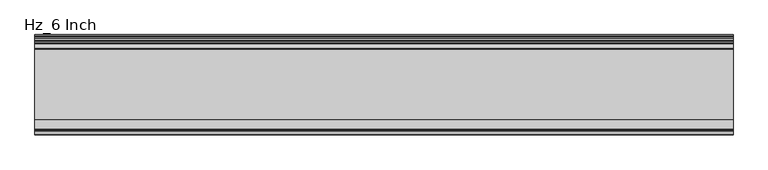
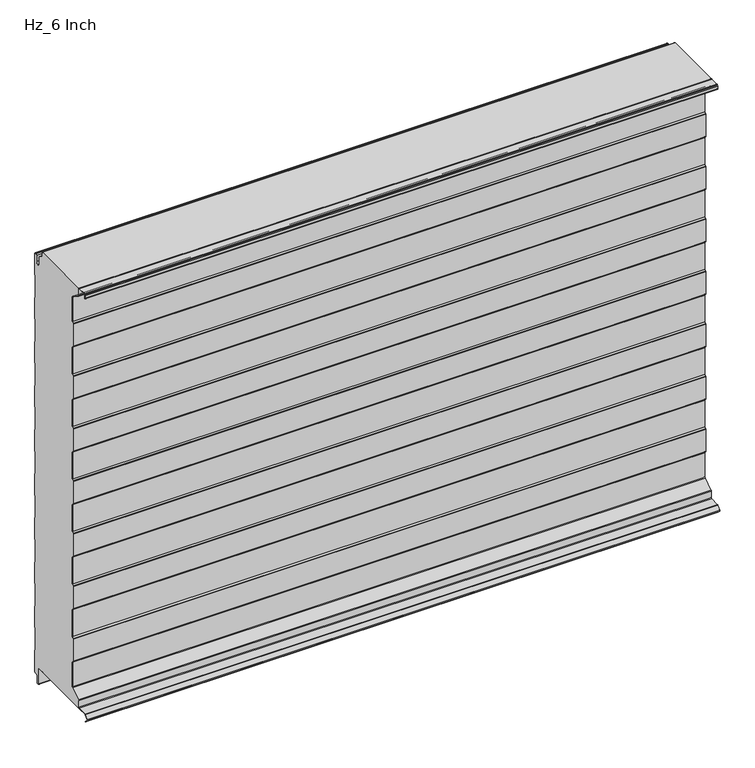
"""IFC4 building model written with IfcOpenShell, lengths in millimetres: plate geometry, KIP_R19_CP_KingSeam_Hz_Roof Panel : Hz_6 Inch."""

from ifc_helpers import new_model, si_unit, point, frame, frame_2d, origin, place, context, project, spatial, polyline, circle_curve, trimmed, segment, composite_curve, outline, extrude, source, transform, mapped, element, save


def hz_6_inch_54fbc4f6(model_context):
    return source(origin(), model_context, "Body", "SweptSolid", [
        extrude(outline(composite_curve([segment(polyline([(-152.1158093, 535.7535265), (-149.6158809, 539.2132218), (-149.6158809, 603.7867783), (-152.115809, 607.2464732)]), True, "CONTINUOUS"), segment(trimmed(circle_curve(frame_2d((-150.9000003, 608.1249998)), 1.4999999), [point((-152.115809, 607.2464732))], [point((-152.4000002, 608.1249998))], False, "CARTESIAN"), True, "CONTINUOUS"), segment(polyline([(-152.4000002, 608.1249998), (-152.4000003, 661.8749998)]), True, "CONTINUOUS"), segment(trimmed(circle_curve(frame_2d((-150.9000002, 661.8749998)), 1.5), [point((-152.4000003, 661.8749998))], [point((-152.1158089, 662.7535266))], False, "CARTESIAN"), True, "CONTINUOUS"), segment(polyline([(-152.1158089, 662.7535266), (-149.6158807, 666.2132214), (-149.6158807, 730.7867783), (-152.115809, 734.246473)]), True, "CONTINUOUS"), segment(trimmed(circle_curve(frame_2d((-150.9000003, 735.1249998)), 1.5000001), [point((-152.115809, 734.246473))], [point((-152.4000004, 735.1249998))], False, "CARTESIAN"), True, "CONTINUOUS"), segment(polyline([(-152.4000004, 735.1249998), (-152.4000004, 788.8749998)]), True, "CONTINUOUS"), segment(trimmed(circle_curve(frame_2d((-150.9000005, 788.8749998)), 1.4999999), [point((-152.4000004, 788.8749998))], [point((-152.1158091, 789.7535265))], False, "CARTESIAN"), True, "CONTINUOUS"), segment(polyline([(-152.1158091, 789.7535265), (-149.6158803, 793.2132223), (-149.6158803, 857.7867782), (-152.1158086, 861.246473)]), True, "CONTINUOUS"), segment(trimmed(circle_curve(frame_2d((-150.8999999, 862.1249998)), 1.5000001), [point((-152.1158086, 861.246473))], [point((-152.4, 862.1249998))], False, "CARTESIAN"), True, "CONTINUOUS"), segment(polyline([(-152.4, 862.1249998), (-152.4, 915.8749998)]), True, "CONTINUOUS"), segment(trimmed(circle_curve(frame_2d((-150.9000001, 915.8749998)), 1.4999999), [point((-152.4, 915.8749998))], [point((-152.1158088, 916.7535264))], False, "CARTESIAN"), True, "CONTINUOUS"), segment(polyline([(-152.1158088, 916.7535264), (-149.6158808, 920.2132216), (-149.6158808, 979.387149)]), True, "CONTINUOUS"), segment(trimmed(circle_curve(frame_2d((-152.1158808, 979.387149)), 2.5), [point((-149.6158808, 979.387149))], [point((-150.7365754, 981.4722189))], True, "CARTESIAN"), True, "CONTINUOUS"), segment(polyline([(-150.7365754, 981.4722189), (-173.7193251, 996.6756573)]), True, "CONTINUOUS"), segment(trimmed(circle_curve(frame_2d((-172.6158808, 998.3437132)), 2.0), [point((-173.7193251, 996.6756573))], [point((-174.6158808, 998.3437132))], False, "CARTESIAN"), True, "CONTINUOUS"), segment(polyline([(-174.6158808, 998.3437132), (-174.6158808, 1013.8999998)]), True, "CONTINUOUS"), segment(trimmed(circle_curve(frame_2d((-176.7158808, 1013.8999998)), 2.1), [point((-174.6158808, 1013.8999998))], [point((-176.7158808, 1015.9999998))], True, "CARTESIAN"), True, "CONTINUOUS"), segment(polyline([(-176.7158808, 1015.9999998), (-31.9999994, 1015.9999998), (-31.9999994, 1015.1999999), (-30.7664368, 1015.1999999)]), True, "CONTINUOUS"), segment(trimmed(circle_curve(frame_2d((-30.7664368, 1014.1999999)), 1.0), [point((-30.7664368, 1015.1999999))], [point((-29.7664368, 1014.1999999))], False, "CARTESIAN"), True, "CONTINUOUS"), segment(polyline([(-29.7664368, 1014.1999999), (-29.7664368, 1004.6085617)]), True, "CONTINUOUS"), segment(trimmed(circle_curve(frame_2d((-27.7664368, 1004.6085617)), 2.0), [point((-29.7664368, 1004.6085617))], [point((-28.7691573, 1002.8780844))], True, "CARTESIAN"), True, "CONTINUOUS"), segment(polyline([(-28.7691573, 1002.8780844), (-18.9986392, 997.2165837)]), True, "CONTINUOUS"), segment(trimmed(circle_curve(frame_2d((-19.4999994, 996.351345)), 1.0), [point((-18.9986392, 997.2165837))], [point((-18.4999994, 996.351345))], False, "CARTESIAN"), True, "CONTINUOUS"), segment(polyline([(-18.4999994, 996.351345), (-18.4999994, 979.25)]), True, "CONTINUOUS"), segment(trimmed(circle_curve(frame_2d((-13.7499994, 979.25)), 4.75), [point((-18.4999994, 979.25))], [point((-13.7499994, 974.5))], True, "CARTESIAN"), True, "CONTINUOUS"), segment(polyline([(-13.7499994, 974.5), (-12.2499994, 974.5)]), True, "CONTINUOUS"), segment(trimmed(circle_curve(frame_2d((-12.2499994, 979.25)), 4.75), [point((-12.2499994, 974.5))], [point((-7.4999994, 979.25))], True, "CARTESIAN"), True, "CONTINUOUS"), segment(polyline([(-7.4999994, 979.25), (-7.4999994, 994.2157998)]), True, "CONTINUOUS"), segment(trimmed(circle_curve(frame_2d((-4.9999994, 994.2157998)), 2.5), [point((-7.4999994, 994.2157998))], [point((-4.9999994, 996.7157998))], False, "CARTESIAN"), True, "CONTINUOUS"), segment(polyline([(-4.9999994, 996.7157998), (-2.9999994, 996.7157998)]), True, "CONTINUOUS"), segment(trimmed(circle_curve(frame_2d((-2.8161919, 994.6595504)), 2.0644483), [point((-2.9999994, 996.7157998))], [point((-0.7999994, 994.2157998))], False, "CARTESIAN"), True, "CONTINUOUS"), segment(polyline([(-0.7999994, 994.2157998), (-0.7999994, 944.4584772)]), True, "CONTINUOUS"), segment(trimmed(circle_curve(frame_2d((-3.1999994, 944.4584772)), 2.4), [point((-0.7999994, 944.4584772))], [point((-0.9968117, 943.5066559))], False, "CARTESIAN"), True, "CONTINUOUS"), segment(polyline([(-0.9968117, 943.5066559), (-2.0293826, 941.1165567)]), True, "CONTINUOUS"), segment(trimmed(circle_curve(frame_2d((1.0000006, 939.8078024)), 3.3), [point((-2.0293826, 941.1165567))], [point((-2.2999994, 939.8078024))], True, "CARTESIAN"), True, "CONTINUOUS"), segment(polyline([(-2.2999994, 939.8078024), (-2.2999994, 891.4237972)]), True, "CONTINUOUS"), segment(trimmed(circle_curve(frame_2d((1.0000006, 891.4237972)), 3.3), [point((-2.2999994, 891.4237972))], [point((-2.0293826, 890.1150429))], True, "CARTESIAN"), True, "CONTINUOUS"), segment(polyline([(-2.0293826, 890.1150429), (-0.9968117, 887.7249437)]), True, "CONTINUOUS"), segment(trimmed(circle_curve(frame_2d((-3.1999994, 886.7731223)), 2.4), [point((-0.9968117, 887.7249437))], [point((-0.7999994, 886.7731223))], False, "CARTESIAN"), True, "CONTINUOUS"), segment(polyline([(-0.7999994, 886.7731223), (-0.7999994, 837.8584772)]), True, "CONTINUOUS"), segment(trimmed(circle_curve(frame_2d((-3.1999994, 837.8584772)), 2.4), [point((-0.7999994, 837.8584772))], [point((-0.9968117, 836.9066559))], False, "CARTESIAN"), True, "CONTINUOUS"), segment(polyline([(-0.9968117, 836.9066559), (-2.0293826, 834.5165567)]), True, "CONTINUOUS"), segment(trimmed(circle_curve(frame_2d((1.0000006, 833.2078024)), 3.3), [point((-2.0293826, 834.5165567))], [point((-2.2999994, 833.2078024))], True, "CARTESIAN"), True, "CONTINUOUS"), segment(polyline([(-2.2999994, 833.2078024), (-2.2999994, 784.8237972)]), True, "CONTINUOUS"), segment(trimmed(circle_curve(frame_2d((1.0000006, 784.8237972)), 3.3), [point((-2.2999994, 784.8237972))], [point((-2.0293826, 783.5150429))], True, "CARTESIAN"), True, "CONTINUOUS"), segment(polyline([(-2.0293826, 783.5150429), (-0.9968117, 781.1249437)]), True, "CONTINUOUS"), segment(trimmed(circle_curve(frame_2d((-3.1999994, 780.1731223)), 2.4), [point((-0.9968117, 781.1249437))], [point((-0.7999994, 780.1731223))], False, "CARTESIAN"), True, "CONTINUOUS"), segment(polyline([(-0.7999994, 780.1731223), (-0.7999994, 731.2584772)]), True, "CONTINUOUS"), segment(trimmed(circle_curve(frame_2d((-3.1999994, 731.2584772)), 2.4), [point((-0.7999994, 731.2584772))], [point((-0.9968117, 730.3066559))], False, "CARTESIAN"), True, "CONTINUOUS"), segment(polyline([(-0.9968117, 730.3066559), (-2.0293826, 727.9165567)]), True, "CONTINUOUS"), segment(trimmed(circle_curve(frame_2d((1.0000006, 726.6078024)), 3.3), [point((-2.0293826, 727.9165567))], [point((-2.2999994, 726.6078024))], True, "CARTESIAN"), True, "CONTINUOUS"), segment(polyline([(-2.2999994, 726.6078024), (-2.2999994, 678.2237972)]), True, "CONTINUOUS"), segment(trimmed(circle_curve(frame_2d((1.0000006, 678.2237972)), 3.3), [point((-2.2999994, 678.2237972))], [point((-2.0293826, 676.9150429))], True, "CARTESIAN"), True, "CONTINUOUS"), segment(polyline([(-2.0293826, 676.9150429), (-0.9968117, 674.5249437)]), True, "CONTINUOUS"), segment(trimmed(circle_curve(frame_2d((-3.1999994, 673.5731223)), 2.4), [point((-0.9968117, 674.5249437))], [point((-0.7999994, 673.5731223))], False, "CARTESIAN"), True, "CONTINUOUS"), segment(polyline([(-0.7999994, 673.5731223), (-0.7999994, 624.6584772)]), True, "CONTINUOUS"), segment(trimmed(circle_curve(frame_2d((-3.1999994, 624.6584772)), 2.4), [point((-0.7999994, 624.6584772))], [point((-0.9968117, 623.7066559))], False, "CARTESIAN"), True, "CONTINUOUS"), segment(polyline([(-0.9968117, 623.7066559), (-2.0293826, 621.3165567)]), True, "CONTINUOUS"), segment(trimmed(circle_curve(frame_2d((1.0000006, 620.0078024)), 3.3), [point((-2.0293826, 621.3165567))], [point((-2.2999994, 620.0078024))], True, "CARTESIAN"), True, "CONTINUOUS"), segment(polyline([(-2.2999994, 620.0078024), (-2.2999994, 571.6237972)]), True, "CONTINUOUS"), segment(trimmed(circle_curve(frame_2d((1.0000006, 571.6237972)), 3.3), [point((-2.2999994, 571.6237972))], [point((-2.0293826, 570.3150429))], True, "CARTESIAN"), True, "CONTINUOUS"), segment(polyline([(-2.0293826, 570.3150429), (-0.9968117, 567.9249437)]), True, "CONTINUOUS"), segment(trimmed(circle_curve(frame_2d((-3.1999994, 566.9731223)), 2.4), [point((-0.9968117, 567.9249437))], [point((-0.7999994, 566.9731223))], False, "CARTESIAN"), True, "CONTINUOUS"), segment(polyline([(-0.7999994, 566.9731223), (-0.7999994, 518.0584772)]), True, "CONTINUOUS"), segment(trimmed(circle_curve(frame_2d((-3.1999994, 518.0584772)), 2.4), [point((-0.7999994, 518.0584772))], [point((-0.9968117, 517.1066559))], False, "CARTESIAN"), True, "CONTINUOUS"), segment(polyline([(-0.9968117, 517.1066559), (-2.0293826, 514.7165567)]), True, "CONTINUOUS"), segment(trimmed(circle_curve(frame_2d((1.0000006, 513.4078024)), 3.3), [point((-2.0293826, 514.7165567))], [point((-2.2999994, 513.4078024))], True, "CARTESIAN"), True, "CONTINUOUS"), segment(polyline([(-2.2999994, 513.4078024), (-2.2999994, 465.0237972)]), True, "CONTINUOUS"), segment(trimmed(circle_curve(frame_2d((1.0000006, 465.0237972)), 3.3), [point((-2.2999994, 465.0237972))], [point((-2.0293826, 463.7150429))], True, "CARTESIAN"), True, "CONTINUOUS"), segment(polyline([(-2.0293826, 463.7150429), (-0.9968117, 461.3249437)]), True, "CONTINUOUS"), segment(trimmed(circle_curve(frame_2d((-3.1999994, 460.3731223)), 2.4), [point((-0.9968117, 461.3249437))], [point((-0.7999994, 460.3731223))], False, "CARTESIAN"), True, "CONTINUOUS"), segment(polyline([(-0.7999994, 460.3731223), (-0.7999994, 411.4584772)]), True, "CONTINUOUS"), segment(trimmed(circle_curve(frame_2d((-3.1999994, 411.4584772)), 2.4), [point((-0.7999994, 411.4584772))], [point((-0.9968117, 410.5066559))], False, "CARTESIAN"), True, "CONTINUOUS"), segment(polyline([(-0.9968117, 410.5066559), (-2.0293826, 408.1165567)]), True, "CONTINUOUS"), segment(trimmed(circle_curve(frame_2d((1.0000006, 406.8078024)), 3.3), [point((-2.0293826, 408.1165567))], [point((-2.2999994, 406.8078024))], True, "CARTESIAN"), True, "CONTINUOUS"), segment(polyline([(-2.2999994, 406.8078024), (-2.2999994, 358.4237972)]), True, "CONTINUOUS"), segment(trimmed(circle_curve(frame_2d((1.0000006, 358.4237972)), 3.3), [point((-2.2999994, 358.4237972))], [point((-2.0293826, 357.1150429))], True, "CARTESIAN"), True, "CONTINUOUS"), segment(polyline([(-2.0293826, 357.1150429), (-0.9968117, 354.7249437)]), True, "CONTINUOUS"), segment(trimmed(circle_curve(frame_2d((-3.1999994, 353.7731223)), 2.4), [point((-0.9968117, 354.7249437))], [point((-0.7999994, 353.7731223))], False, "CARTESIAN"), True, "CONTINUOUS"), segment(polyline([(-0.7999994, 353.7731223), (-0.7999994, 304.8584772)]), True, "CONTINUOUS"), segment(trimmed(circle_curve(frame_2d((-3.1999994, 304.8584772)), 2.4), [point((-0.7999994, 304.8584772))], [point((-0.9968117, 303.9066559))], False, "CARTESIAN"), True, "CONTINUOUS"), segment(polyline([(-0.9968117, 303.9066559), (-2.0293826, 301.5165567)]), True, "CONTINUOUS"), segment(trimmed(circle_curve(frame_2d((1.0000006, 300.2078024)), 3.3), [point((-2.0293826, 301.5165567))], [point((-2.2999994, 300.2078024))], True, "CARTESIAN"), True, "CONTINUOUS"), segment(polyline([(-2.2999994, 300.2078024), (-2.2999994, 251.8237972)]), True, "CONTINUOUS"), segment(trimmed(circle_curve(frame_2d((1.0000006, 251.8237972)), 3.3), [point((-2.2999994, 251.8237972))], [point((-2.0293826, 250.5150429))], True, "CARTESIAN"), True, "CONTINUOUS"), segment(polyline([(-2.0293826, 250.5150429), (-0.9968117, 248.1249437)]), True, "CONTINUOUS"), segment(trimmed(circle_curve(frame_2d((-3.1999994, 247.1731223)), 2.4), [point((-0.9968117, 248.1249437))], [point((-0.7999994, 247.1731223))], False, "CARTESIAN"), True, "CONTINUOUS"), segment(polyline([(-0.7999994, 247.1731223), (-0.7999994, 198.2584772)]), True, "CONTINUOUS"), segment(trimmed(circle_curve(frame_2d((-3.1999994, 198.2584772)), 2.4), [point((-0.7999994, 198.2584772))], [point((-0.9968117, 197.3066559))], False, "CARTESIAN"), True, "CONTINUOUS"), segment(polyline([(-0.9968117, 197.3066559), (-2.0293826, 194.9165567)]), True, "CONTINUOUS"), segment(trimmed(circle_curve(frame_2d((1.0000006, 193.6078024)), 3.3), [point((-2.0293826, 194.9165567))], [point((-2.2999994, 193.6078024))], True, "CARTESIAN"), True, "CONTINUOUS"), segment(polyline([(-2.2999994, 193.6078024), (-2.2999994, 145.2237972)]), True, "CONTINUOUS"), segment(trimmed(circle_curve(frame_2d((1.0000006, 145.2237972)), 3.3), [point((-2.2999994, 145.2237972))], [point((-2.0293826, 143.9150429))], True, "CARTESIAN"), True, "CONTINUOUS"), segment(polyline([(-2.0293826, 143.9150429), (-0.9968117, 141.5249437)]), True, "CONTINUOUS"), segment(trimmed(circle_curve(frame_2d((-3.1999994, 140.5731223)), 2.4), [point((-0.9968117, 141.5249437))], [point((-0.7999994, 140.5731223))], False, "CARTESIAN"), True, "CONTINUOUS"), segment(polyline([(-0.7999994, 140.5731223), (-0.7999994, 91.6584772)]), True, "CONTINUOUS"), segment(trimmed(circle_curve(frame_2d((-3.1999994, 91.6584772)), 2.4), [point((-0.7999994, 91.6584772))], [point((-0.9968117, 90.7066559))], False, "CARTESIAN"), True, "CONTINUOUS"), segment(polyline([(-0.9968117, 90.7066559), (-2.0293826, 88.3165567)]), True, "CONTINUOUS"), segment(trimmed(circle_curve(frame_2d((1.0000006, 87.0078024)), 3.3), [point((-2.0293826, 88.3165567))], [point((-2.2999994, 87.0078024))], True, "CARTESIAN"), True, "CONTINUOUS"), segment(polyline([(-2.2999994, 87.0078024), (-2.2999994, 38.6237972)]), True, "CONTINUOUS"), segment(trimmed(circle_curve(frame_2d((1.0000006, 38.6237972)), 3.3), [point((-2.2999994, 38.6237972))], [point((-2.0293826, 37.3150429))], True, "CARTESIAN"), True, "CONTINUOUS"), segment(polyline([(-2.0293826, 37.3150429), (-0.9968117, 34.9249437)]), True, "CONTINUOUS"), segment(trimmed(circle_curve(frame_2d((-3.1999994, 33.9731223)), 2.4), [point((-0.9968117, 34.9249437))], [point((-0.7999994, 33.9731223))], False, "CARTESIAN"), True, "CONTINUOUS"), segment(polyline([(-0.7999994, 33.9731223), (-0.7999994, -15.7842002)]), True, "CONTINUOUS"), segment(trimmed(circle_curve(frame_2d((-2.8161919, -16.2279508)), 2.0644483), [point((-0.7999994, -15.7842002))], [point((-2.9999994, -18.2842002))], False, "CARTESIAN"), True, "CONTINUOUS"), segment(polyline([(-2.9999994, -18.2842002), (-6.4999994, -18.2842002)]), True, "CONTINUOUS"), segment(trimmed(circle_curve(frame_2d((-6.4999994, -21.2842002)), 3.0), [point((-6.4999994, -18.2842002))], [point((-9.4999994, -21.2842002))], True, "CARTESIAN"), True, "CONTINUOUS"), segment(polyline([(-9.4999994, -21.2842002), (-9.4999994, -37.0)]), True, "CONTINUOUS"), segment(trimmed(circle_curve(frame_2d((-11.9999994, -37.0)), 2.5), [point((-9.4999994, -37.0))], [point((-11.9999994, -39.5))], False, "CARTESIAN"), True, "CONTINUOUS"), segment(polyline([(-11.9999994, -39.5), (-13.9999994, -39.5)]), True, "CONTINUOUS"), segment(trimmed(circle_curve(frame_2d((-13.9999994, -37.0)), 2.5), [point((-13.9999994, -39.5))], [point((-16.4999994, -37.0))], False, "CARTESIAN"), True, "CONTINUOUS"), segment(polyline([(-16.4999994, -37.0), (-16.4999994, -1.5)]), True, "CONTINUOUS"), segment(trimmed(circle_curve(frame_2d((-18.4999994, -1.5)), 2.0), [point((-16.4999994, -1.5))], [point((-18.4999994, 0.5))], True, "CARTESIAN"), True, "CONTINUOUS"), segment(polyline([(-18.4999994, 0.5), (-29.6999994, 0.5)]), True, "CONTINUOUS"), segment(trimmed(circle_curve(frame_2d((-29.6999994, 2.0)), 1.5), [point((-29.6999994, 0.5))], [point((-31.1999994, 2.0))], False, "CARTESIAN"), True, "CONTINUOUS"), segment(polyline([(-31.1999994, 2.0), (-31.1999994, 9.5), (-31.9999994, 9.5), (-31.9999994, 2.0)]), True, "CONTINUOUS"), segment(trimmed(circle_curve(frame_2d((-29.9999994, 2.0)), 2.0), [point((-31.9999994, 2.0))], [point((-29.9999994, 0.0))], True, "CARTESIAN"), True, "CONTINUOUS"), segment(polyline([(-29.9999994, 0.0), (-176.7158809, 0.0)]), True, "CONTINUOUS"), segment(trimmed(circle_curve(frame_2d((-176.7158809, 2.0999999)), 2.0999999), [point((-176.7158809, 0.0))], [point((-174.6158811, 2.0999999))], True, "CARTESIAN"), True, "CONTINUOUS"), segment(polyline([(-174.6158811, 2.0999999), (-174.6158811, 17.6562865)]), True, "CONTINUOUS"), segment(trimmed(circle_curve(frame_2d((-172.6158811, 17.6562865)), 2.0), [point((-174.6158811, 17.6562865))], [point((-173.7193254, 19.3243424))], False, "CARTESIAN"), True, "CONTINUOUS"), segment(polyline([(-173.7193254, 19.3243424), (-150.7365754, 34.5277806)]), True, "CONTINUOUS"), segment(trimmed(circle_curve(frame_2d((-152.1158809, 36.6128507)), 2.5000002), [point((-150.7365754, 34.5277806))], [point((-149.6158807, 36.6128507))], True, "CARTESIAN"), True, "CONTINUOUS"), segment(polyline([(-149.6158807, 36.6128507), (-149.6158807, 95.7867783), (-152.115809, 99.2464731)]), True, "CONTINUOUS"), segment(trimmed(circle_curve(frame_2d((-150.9000002, 100.1249999)), 1.5000002), [point((-152.115809, 99.2464731))], [point((-152.4000003, 100.1249999))], False, "CARTESIAN"), True, "CONTINUOUS"), segment(polyline([(-152.4000003, 100.1249999), (-152.4000003, 153.8749999)]), True, "CONTINUOUS"), segment(trimmed(circle_curve(frame_2d((-150.9000001, 153.8749999)), 1.5000002), [point((-152.4000003, 153.8749999))], [point((-152.115809, 154.7535268))], False, "CARTESIAN"), True, "CONTINUOUS"), segment(polyline([(-152.115809, 154.7535268), (-149.6158807, 158.2132214), (-149.6158807, 222.7867783), (-152.115809, 226.2464731)]), True, "CONTINUOUS"), segment(trimmed(circle_curve(frame_2d((-150.9000003, 227.1249999)), 1.5000001), [point((-152.115809, 226.2464731))], [point((-152.4000004, 227.1249999))], False, "CARTESIAN"), True, "CONTINUOUS"), segment(polyline([(-152.4000004, 227.1249999), (-152.4000004, 280.8749999)]), True, "CONTINUOUS"), segment(trimmed(circle_curve(frame_2d((-150.9000006, 280.8749999)), 1.4999997), [point((-152.4000004, 280.8749999))], [point((-152.1158092, 281.7535264))], False, "CARTESIAN"), True, "CONTINUOUS"), segment(polyline([(-152.1158092, 281.7535264), (-149.6158809, 285.2132219), (-149.6158809, 349.7867783), (-152.1158092, 353.246473)]), True, "CONTINUOUS"), segment(trimmed(circle_curve(frame_2d((-150.9000005, 354.1249999)), 1.5000001), [point((-152.1158092, 353.246473))], [point((-152.4000006, 354.1249999))], False, "CARTESIAN"), True, "CONTINUOUS"), segment(polyline([(-152.4000006, 354.1249999), (-152.4000006, 407.8749998)]), True, "CONTINUOUS"), segment(trimmed(circle_curve(frame_2d((-150.9000006, 407.8749998)), 1.4999999), [point((-152.4000006, 407.8749998))], [point((-152.1158093, 408.7535265))], False, "CARTESIAN"), True, "CONTINUOUS"), segment(polyline([(-152.1158093, 408.7535265), (-149.6158809, 412.2132218), (-149.6158809, 476.7867783), (-152.1158092, 480.246473)]), True, "CONTINUOUS"), segment(trimmed(circle_curve(frame_2d((-150.9000005, 481.1249999)), 1.5000001), [point((-152.1158092, 480.246473))], [point((-152.4000006, 481.1249999))], False, "CARTESIAN"), True, "CONTINUOUS"), segment(polyline([(-152.4000006, 481.1249999), (-152.4000006, 534.8749998)]), True, "CONTINUOUS"), segment(trimmed(circle_curve(frame_2d((-150.9000006, 534.8749998)), 1.4999999), [point((-152.4000006, 534.8749998))], [point((-152.1158093, 535.7535265))], False, "CARTESIAN"), True, "CONTINUOUS")], self_intersect=False)), frame((-723.9042608, 0.0, 0.0), z_axis=(1.0, 0.0, 0.0), x_axis=(0.0, 1.0, 0.0)), (0.0, 0.0, 1.0), 1447.8085217),
        extrude(outline(composite_curve([segment(polyline([(-152.6158084, 154.7942705), (-150.115881, 158.253964), (-150.115881, 222.8275218), (-152.615809, 226.287217)]), True, "CONTINUOUS"), segment(trimmed(circle_curve(frame_2d((-151.4000005, 227.1657434)), 1.4999996), [point((-152.615809, 226.287217))], [point((-152.8999998, 227.1667148))], False, "CARTESIAN"), True, "CONTINUOUS"), segment(polyline([(-152.8999998, 227.1667148), (-152.8999998, 280.9157434)]), True, "CONTINUOUS"), segment(trimmed(circle_curve(frame_2d((-151.3999998, 280.9157434)), 1.5), [point((-152.8999998, 280.9157434))], [point((-152.6158085, 281.7942702))], False, "CARTESIAN"), True, "CONTINUOUS"), segment(polyline([(-152.6158085, 281.7942702), (-150.1158804, 285.2539647), (-150.1158804, 349.8275216), (-152.6158085, 353.2872165)]), True, "CONTINUOUS"), segment(trimmed(circle_curve(frame_2d((-151.3999998, 354.1657432)), 1.4999999), [point((-152.6158085, 353.2872165))], [point((-152.8999994, 354.1667146))], False, "CARTESIAN"), True, "CONTINUOUS"), segment(polyline([(-152.8999994, 354.1667146), (-152.8999994, 407.9157432)]), True, "CONTINUOUS"), segment(trimmed(circle_curve(frame_2d((-151.3999995, 407.9157432)), 1.4999999), [point((-152.8999994, 407.9157432))], [point((-152.6158082, 408.7942699))], False, "CARTESIAN"), True, "CONTINUOUS"), segment(polyline([(-152.6158082, 408.7942699), (-150.1158804, 412.2539643), (-150.1158804, 476.8275216), (-152.6158085, 480.2872164)]), True, "CONTINUOUS"), segment(trimmed(circle_curve(frame_2d((-151.3999998, 481.1657432)), 1.5), [point((-152.6158085, 480.2872164))], [point((-152.8999995, 481.1667146))], False, "CARTESIAN"), True, "CONTINUOUS"), segment(polyline([(-152.8999995, 481.1667146), (-152.8999995, 534.9157431)]), True, "CONTINUOUS"), segment(trimmed(circle_curve(frame_2d((-151.3999995, 534.9157431)), 1.5), [point((-152.8999995, 534.9157431))], [point((-152.6158082, 535.7942699))], False, "CARTESIAN"), True, "CONTINUOUS"), segment(polyline([(-152.6158082, 535.7942699), (-150.1158804, 539.2539643), (-150.1158804, 603.8275216), (-152.6158085, 607.2872164)]), True, "CONTINUOUS"), segment(trimmed(circle_curve(frame_2d((-151.3999998, 608.1657431)), 1.5), [point((-152.6158085, 607.2872164))], [point((-152.8999995, 608.1667146))], False, "CARTESIAN"), True, "CONTINUOUS"), segment(polyline([(-152.8999995, 608.1667146), (-152.8999995, 661.9157431)]), True, "CONTINUOUS"), segment(trimmed(circle_curve(frame_2d((-151.3999995, 661.9157431)), 1.5), [point((-152.8999995, 661.9157431))], [point((-152.6158082, 662.7942699))], False, "CARTESIAN"), True, "CONTINUOUS"), segment(polyline([(-152.6158082, 662.7942699), (-150.1158804, 666.2539641), (-150.1158804, 730.8275214), (-152.6158087, 734.2872159)]), True, "CONTINUOUS"), segment(trimmed(circle_curve(frame_2d((-151.3999998, 735.1657429)), 1.5000003), [point((-152.6158087, 734.2872159))], [point((-152.8999999, 735.1667144))], False, "CARTESIAN"), True, "CONTINUOUS"), segment(polyline([(-152.8999999, 735.1667144), (-152.8999999, 788.915743)]), True, "CONTINUOUS"), segment(trimmed(circle_curve(frame_2d((-151.3999998, 788.915743)), 1.5), [point((-152.8999999, 788.915743))], [point((-152.6158085, 789.7942697))], False, "CARTESIAN"), True, "CONTINUOUS"), segment(polyline([(-152.6158085, 789.7942697), (-150.1158804, 793.2539644), (-150.1158804, 857.8275212), (-152.6158085, 861.2872162)]), True, "CONTINUOUS"), segment(trimmed(circle_curve(frame_2d((-151.3999999, 862.1657428)), 1.4999999), [point((-152.6158085, 861.2872162))], [point((-152.8999995, 862.1667142))], False, "CARTESIAN"), True, "CONTINUOUS"), segment(polyline([(-152.8999995, 862.1667142), (-152.8999995, 915.9157427)]), True, "CONTINUOUS"), segment(trimmed(circle_curve(frame_2d((-151.3999994, 915.9157427)), 1.5000001), [point((-152.8999995, 915.9157427))], [point((-152.6158081, 916.7942695))], False, "CARTESIAN"), True, "CONTINUOUS"), segment(polyline([(-152.6158081, 916.7942695), (-150.1158806, 920.2539634), (-150.1158806, 979.4278919)]), True, "CONTINUOUS"), segment(trimmed(circle_curve(frame_2d((-152.1158804, 979.4278919)), 1.9999997), [point((-150.1158806, 979.4278919))], [point((-151.0124361, 981.0959476))], True, "CARTESIAN"), True, "CONTINUOUS"), segment(polyline([(-151.0124361, 981.0959476), (-173.9951861, 996.2993863)]), True, "CONTINUOUS"), segment(trimmed(circle_curve(frame_2d((-172.6158807, 998.3844561)), 2.4999999), [point((-173.9951861, 996.2993863))], [point((-175.1158806, 998.3844561))], False, "CARTESIAN"), True, "CONTINUOUS"), segment(polyline([(-175.1158806, 998.3844561), (-175.1158806, 1013.9407427)]), True, "CONTINUOUS"), segment(trimmed(circle_curve(frame_2d((-176.7158806, 1013.9407427)), 1.6), [point((-175.1158806, 1013.9407427))], [point((-176.7158806, 1015.5407427))], True, "CARTESIAN"), True, "CONTINUOUS"), segment(polyline([(-176.7158806, 1015.5407427), (-197.5669597, 1015.5407427)]), True, "CONTINUOUS"), segment(trimmed(circle_curve(frame_2d((-197.5669597, 1014.3507427)), 1.19), [point((-197.5669597, 1015.5407427))], [point((-198.4084168, 1015.1921998))], True, "CARTESIAN"), True, "CONTINUOUS"), segment(polyline([(-198.4084168, 1015.1921998), (-199.4184377, 1014.1821788)]), True, "CONTINUOUS"), segment(trimmed(circle_curve(frame_2d((-198.5769807, 1013.3407218)), 1.19), [point((-199.4184377, 1014.1821788))], [point((-199.7669807, 1013.3407218))], True, "CARTESIAN"), True, "CONTINUOUS"), segment(polyline([(-199.7669807, 1013.3407218), (-199.7669807, 1006.6107427)]), True, "CONTINUOUS"), segment(trimmed(circle_curve(frame_2d((-199.3669807, 1006.6107427)), 0.4), [point((-199.7669807, 1006.6107427))], [point((-198.9669807, 1006.6107427))], True, "CARTESIAN"), True, "CONTINUOUS"), segment(polyline([(-198.9669807, 1006.6107427), (-198.9669807, 1013.3407218), (-198.1669807, 1013.3407218), (-198.1669807, 1006.6107427)]), True, "CONTINUOUS"), segment(trimmed(circle_curve(frame_2d((-199.2169807, 1006.6107427)), 1.05), [point((-198.1669807, 1006.6107427))], [point((-200.2669807, 1006.6107427))], False, "CARTESIAN"), True, "CONTINUOUS"), segment(polyline([(-200.2669807, 1006.6107427), (-200.2669807, 1013.3407218)]), True, "CONTINUOUS"), segment(trimmed(circle_curve(frame_2d((-198.5769807, 1013.3407218)), 1.69), [point((-200.2669807, 1013.3407218))], [point((-199.771991, 1014.5357324))], False, "CARTESIAN"), True, "CONTINUOUS"), segment(polyline([(-199.771991, 1014.5357324), (-198.76197, 1015.5457532)]), True, "CONTINUOUS"), segment(trimmed(circle_curve(frame_2d((-197.5669597, 1014.3507427)), 1.6899998), [point((-198.76197, 1015.5457532))], [point((-197.5669597, 1016.0407425))], False, "CARTESIAN"), True, "CONTINUOUS"), segment(polyline([(-197.5669597, 1016.0407425), (-176.7158805, 1016.0407425)]), True, "CONTINUOUS"), segment(trimmed(circle_curve(frame_2d((-176.7158805, 1013.9407427)), 2.0999998), [point((-176.7158805, 1016.0407425))], [point((-174.6158807, 1013.9407427))], False, "CARTESIAN"), True, "CONTINUOUS"), segment(polyline([(-174.6158807, 1013.9407427), (-174.6158807, 998.3844561)]), True, "CONTINUOUS"), segment(trimmed(circle_curve(frame_2d((-172.6158807, 998.3844561)), 2.0), [point((-174.6158807, 998.3844561))], [point((-173.719325, 996.7164001))], True, "CARTESIAN"), True, "CONTINUOUS"), segment(polyline([(-173.719325, 996.7164001), (-150.7365749, 981.5129618)]), True, "CONTINUOUS"), segment(trimmed(circle_curve(frame_2d((-152.1158804, 979.4278919)), 2.5), [point((-150.7365749, 981.5129618))], [point((-149.6158803, 979.4278919))], False, "CARTESIAN"), True, "CONTINUOUS"), segment(polyline([(-149.6158803, 979.4278919), (-149.6158803, 920.2539643), (-152.1158086, 916.7942696)]), True, "CONTINUOUS"), segment(trimmed(circle_curve(frame_2d((-150.8999998, 915.9157427)), 1.5000002), [point((-152.1158086, 916.7942696))], [point((-152.3999999, 915.9157427))], True, "CARTESIAN"), True, "CONTINUOUS"), segment(polyline([(-152.3999999, 915.9157427), (-152.3999999, 862.1657428)]), True, "CONTINUOUS"), segment(trimmed(circle_curve(frame_2d((-150.8999999, 862.1657428)), 1.5), [point((-152.3999999, 862.1657428))], [point((-152.1158086, 861.287216))], True, "CARTESIAN"), True, "CONTINUOUS"), segment(polyline([(-152.1158086, 861.287216), (-149.6158803, 857.8275213), (-149.6158803, 793.2539644), (-152.1158087, 789.7942698)]), True, "CONTINUOUS"), segment(trimmed(circle_curve(frame_2d((-150.9000001, 788.915743)), 1.5), [point((-152.1158087, 789.7942698))], [point((-152.4000001, 788.915743))], True, "CARTESIAN"), True, "CONTINUOUS"), segment(polyline([(-152.4000001, 788.915743), (-152.4000001, 735.165743)]), True, "CONTINUOUS"), segment(trimmed(circle_curve(frame_2d((-150.9000001, 735.165743)), 1.5), [point((-152.4000001, 735.165743))], [point((-152.1158088, 734.2872162))], True, "CARTESIAN"), True, "CONTINUOUS"), segment(polyline([(-152.1158088, 734.2872162), (-149.6158803, 730.827521), (-149.6158803, 666.2539645), (-152.1158086, 662.7942699)]), True, "CONTINUOUS"), segment(trimmed(circle_curve(frame_2d((-150.8999999, 661.9157431)), 1.5), [point((-152.1158086, 662.7942699))], [point((-152.3999999, 661.9157431))], True, "CARTESIAN"), True, "CONTINUOUS"), segment(polyline([(-152.3999999, 661.9157431), (-152.3999999, 608.1657431)]), True, "CONTINUOUS"), segment(trimmed(circle_curve(frame_2d((-150.9000001, 608.1657431)), 1.4999998), [point((-152.3999999, 608.1657431))], [point((-152.1158087, 607.2872166))], True, "CARTESIAN"), True, "CONTINUOUS"), segment(polyline([(-152.1158087, 607.2872166), (-149.6158803, 603.8275211), (-149.6158803, 539.2539647), (-152.1158086, 535.79427)]), True, "CONTINUOUS"), segment(trimmed(circle_curve(frame_2d((-150.8999999, 534.9157431)), 1.5000001), [point((-152.1158086, 535.79427))], [point((-152.4, 534.9157431))], True, "CARTESIAN"), True, "CONTINUOUS"), segment(polyline([(-152.4, 534.9157431), (-152.4, 481.1657432)]), True, "CONTINUOUS"), segment(trimmed(circle_curve(frame_2d((-150.9000001, 481.1657432)), 1.4999999), [point((-152.4, 481.1657432))], [point((-152.1158087, 480.2872165))], True, "CARTESIAN"), True, "CONTINUOUS"), segment(polyline([(-152.1158087, 480.2872165), (-149.6158803, 476.8275212), (-149.6158803, 412.2539647), (-152.1158084, 408.7942698)]), True, "CONTINUOUS"), segment(trimmed(circle_curve(frame_2d((-150.8999998, 407.9157432)), 1.4999999), [point((-152.1158084, 408.7942698))], [point((-152.3999997, 407.9157432))], True, "CARTESIAN"), True, "CONTINUOUS"), segment(polyline([(-152.3999997, 407.9157432), (-152.3999997, 354.1657432)]), True, "CONTINUOUS"), segment(trimmed(circle_curve(frame_2d((-150.8999996, 354.1657432)), 1.5), [point((-152.3999997, 354.1657432))], [point((-152.1158084, 353.2872165))], True, "CARTESIAN"), True, "CONTINUOUS"), segment(polyline([(-152.1158084, 353.2872165), (-149.6158803, 349.8275216), (-149.6158803, 285.2539647), (-152.1158084, 281.7942701)]), True, "CONTINUOUS"), segment(trimmed(circle_curve(frame_2d((-150.8999997, 280.9157434)), 1.5), [point((-152.1158084, 281.7942701))], [point((-152.3999997, 280.9157434))], True, "CARTESIAN"), True, "CONTINUOUS"), segment(polyline([(-152.3999997, 280.9157434), (-152.3999997, 227.1657434)]), True, "CONTINUOUS"), segment(trimmed(circle_curve(frame_2d((-150.9000002, 227.1657434)), 1.4999994), [point((-152.3999997, 227.1657434))], [point((-152.1158086, 226.2872172))], True, "CARTESIAN"), True, "CONTINUOUS"), segment(polyline([(-152.1158086, 226.2872172), (-149.6158803, 222.8275209), (-149.6158803, 158.253965), (-152.1158083, 154.7942704)]), True, "CONTINUOUS"), segment(trimmed(circle_curve(frame_2d((-150.8999997, 153.9157437)), 1.4999999), [point((-152.1158083, 154.7942704))], [point((-152.3999996, 153.9157437))], True, "CARTESIAN"), True, "CONTINUOUS"), segment(polyline([(-152.3999996, 153.9157437), (-152.3999996, 100.1657438)]), True, "CONTINUOUS"), segment(trimmed(circle_curve(frame_2d((-150.8999999, 100.1657438)), 1.4999998), [point((-152.3999996, 100.1657438))], [point((-152.1158084, 99.2872172))], True, "CARTESIAN"), True, "CONTINUOUS"), segment(polyline([(-152.1158084, 99.2872172), (-149.6158803, 95.8275222), (-149.6158803, 36.6535949)]), True, "CONTINUOUS"), segment(trimmed(circle_curve(frame_2d((-152.1158801, 36.6535949)), 2.4999998), [point((-149.6158803, 36.6535949))], [point((-150.7365748, 34.5685251))], False, "CARTESIAN"), True, "CONTINUOUS"), segment(polyline([(-150.7365748, 34.5685251), (-173.719325, 19.3650867)]), True, "CONTINUOUS"), segment(trimmed(circle_curve(frame_2d((-172.6158806, 17.6970308)), 2.0), [point((-173.719325, 19.3650867))], [point((-174.6158806, 17.6970308))], True, "CARTESIAN"), True, "CONTINUOUS"), segment(polyline([(-174.6158806, 17.6970308), (-174.6158806, 2.1407442)]), True, "CONTINUOUS"), segment(trimmed(circle_curve(frame_2d((-176.7158807, 2.1407442)), 2.1000001), [point((-174.6158806, 2.1407442))], [point((-176.7158807, 0.0407441))], False, "CARTESIAN"), True, "CONTINUOUS"), segment(polyline([(-176.7158807, 0.0407441), (-199.6505141, 0.0407441)]), True, "CONTINUOUS"), segment(trimmed(circle_curve(frame_2d((-199.6505141, -1.4592559)), 1.5), [point((-199.6505141, 0.0407441))], [point((-200.7111742, -0.3985957))], True, "CARTESIAN"), True, "CONTINUOUS"), segment(polyline([(-200.7111742, -0.3985957), (-208.2309954, -7.9184169)]), True, "CONTINUOUS"), segment(trimmed(circle_curve(frame_2d((-207.2012712, -8.4443276)), 1.15625), [point((-208.2309954, -7.9184169))], [point((-208.0188634, -9.2619198))], True, "CARTESIAN"), True, "CONTINUOUS"), segment(polyline([(-208.0188634, -9.2619198), (-200.6649529, -16.6158303), (-201.2306383, -17.1815158), (-208.5845488, -9.8276052)]), True, "CONTINUOUS"), segment(trimmed(circle_curve(frame_2d((-207.453178, -8.6962344)), 1.6), [point((-208.5845488, -9.8276052))], [point((-208.5845488, -7.5648635))], False, "CARTESIAN"), True, "CONTINUOUS"), segment(polyline([(-208.5845488, -7.5648635), (-201.0647276, -0.0450423)]), True, "CONTINUOUS"), segment(trimmed(circle_curve(frame_2d((-199.6505141, -1.4592559)), 2.0), [point((-201.0647276, -0.0450423))], [point((-199.6505141, 0.5407441))], False, "CARTESIAN"), True, "CONTINUOUS"), segment(polyline([(-199.6505141, 0.5407441), (-176.7158807, 0.5407441)]), True, "CONTINUOUS"), segment(trimmed(circle_curve(frame_2d((-176.7158807, 2.1407442)), 1.6000001), [point((-176.7158807, 0.5407441))], [point((-175.1158806, 2.1407442))], True, "CARTESIAN"), True, "CONTINUOUS"), segment(polyline([(-175.1158806, 2.1407442), (-175.1158806, 17.6970308)]), True, "CONTINUOUS"), segment(trimmed(circle_curve(frame_2d((-172.6158806, 17.6970308)), 2.4999999), [point((-175.1158806, 17.6970308))], [point((-173.9951861, 19.7821006))], False, "CARTESIAN"), True, "CONTINUOUS"), segment(polyline([(-173.9951861, 19.7821006), (-151.012436, 34.9855394)]), True, "CONTINUOUS"), segment(trimmed(circle_curve(frame_2d((-152.1158801, 36.6535949)), 1.9999995), [point((-151.012436, 34.9855394))], [point((-150.1158806, 36.6535949))], True, "CARTESIAN"), True, "CONTINUOUS"), segment(polyline([(-150.1158806, 36.6535949), (-150.1158806, 95.8275222), (-152.6158088, 99.2872171)]), True, "CONTINUOUS"), segment(trimmed(circle_curve(frame_2d((-151.4000001, 100.1657438)), 1.5), [point((-152.6158088, 99.2872171))], [point((-152.8999997, 100.1667151))], False, "CARTESIAN"), True, "CONTINUOUS"), segment(polyline([(-152.8999997, 100.1667151), (-152.8999997, 153.9157437)]), True, "CONTINUOUS"), segment(trimmed(circle_curve(frame_2d((-151.3999998, 153.9157437)), 1.5), [point((-152.8999997, 153.9157437))], [point((-152.6158084, 154.7942705))], False, "CARTESIAN"), True, "CONTINUOUS")], self_intersect=False)), frame((-723.9042608, 0.0, 0.0), z_axis=(1.0, 0.0, 0.0), x_axis=(0.0, 1.0, 0.0)), (0.0, 0.0, 1.0), 1447.8085217),
    ])


if __name__ == "__main__":
    model = new_model("IFC4")
    model_context = context("Model", 3, world=origin())
    ifc_project = project(units=[si_unit("LENGTHUNIT", "METRE", prefix="MILLI")], contexts=[model_context])
    site = spatial("IfcSite", under=ifc_project)
    building = spatial("IfcBuilding", under=site)
    placement = place(None, origin())
    hz_6_inch_shape = hz_6_inch_54fbc4f6(model_context)
    element("IfcPlate", 1, ObjectType="KIP_R19_CP_KingSeam_Hz_Roof Panel : Hz_6 Inch", at=placement, inside=building, context=model_context, shape_type="MappedRepresentation", body=[
        mapped(hz_6_inch_shape, transform((0.0, 0.0, 0.0), x_axis=(1.0, 0.0, 0.0), y_axis=(0.0, 1.0, 0.0), z_axis=(0.0, 0.0, 1.0))),
    ])
    save(model, "model.ifc")
